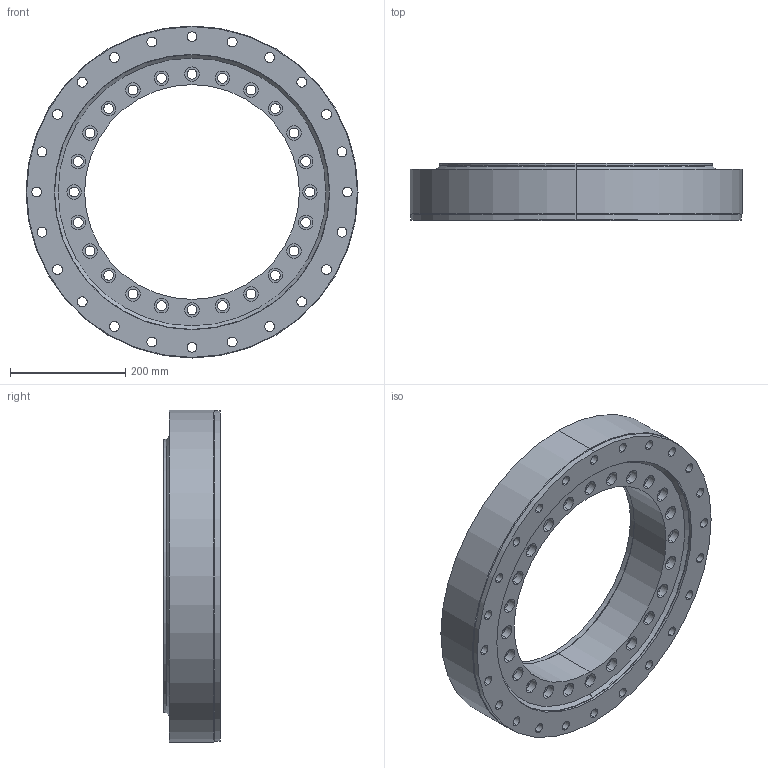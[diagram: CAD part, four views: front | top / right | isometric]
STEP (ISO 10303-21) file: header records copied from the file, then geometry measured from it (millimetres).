
FILE_DESCRIPTION (( 'STEP AP203' ), '1' );
FILE_NAME ('B2222-0-0575BB.STEP', '2022-07-06T11:09:45', ( '' ), ( '' ), 'SwSTEP 2.0', 'SolidWorks 2020', '' );
FILE_SCHEMA (( 'CONFIG_CONTROL_DESIGN' ));
Length unit declared in the file: millimetre
Products named in the file (1): B2222-0-0575BB
Bounding box: 575 x 98 x 575 mm (x, y, z)
Volume: 11923201.3 mm3; surface area: 1177222 mm2
Topology: 4 solids, 4 shells, 287 faces, 670 edges, 444 vertices
Faces by surface type: cylinder 216, plane 61, cone 10
Entity records: 8723 total; most frequent: DIRECTION 1690, CARTESIAN_POINT 1402, ORIENTED_EDGE 1340, AXIS2_PLACEMENT_3D 732, EDGE_CURVE 670, VERTEX_POINT 444, EDGE_LOOP 444, CIRCLE 444
